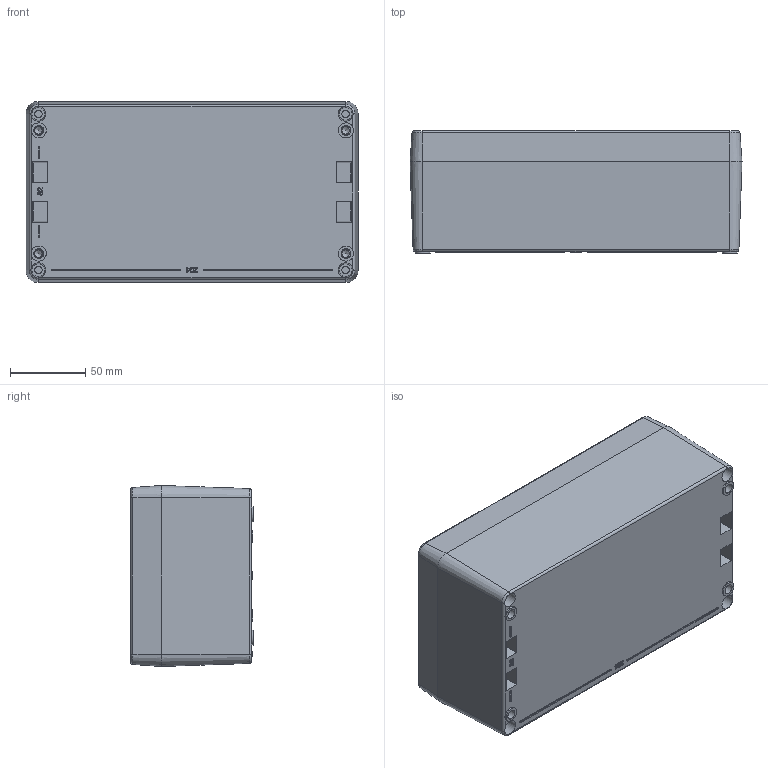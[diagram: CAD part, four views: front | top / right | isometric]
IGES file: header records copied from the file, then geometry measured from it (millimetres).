
Global section: file name: 1590Z150.iam; native system: Autodesk Inventor 2015; preprocessor: unknown; author: MBeerman; date: 20150420.084532; units: millimetre
Bounding box: 221 x 81.5 x 120.5 mm (x, y, z)
Volume: 532354.8 mm3; surface area: 280276.3 mm2
Topology: 8 solids, 8 shells, 730 faces, 1934 edges, 1322 vertices
Faces by surface type: plane 388, revolution 180, cone 68, bspline 54, cylinder 32, sphere 8
Full cylindrical faces by diameter (mm): 5.28 x4, 5.88 x4
